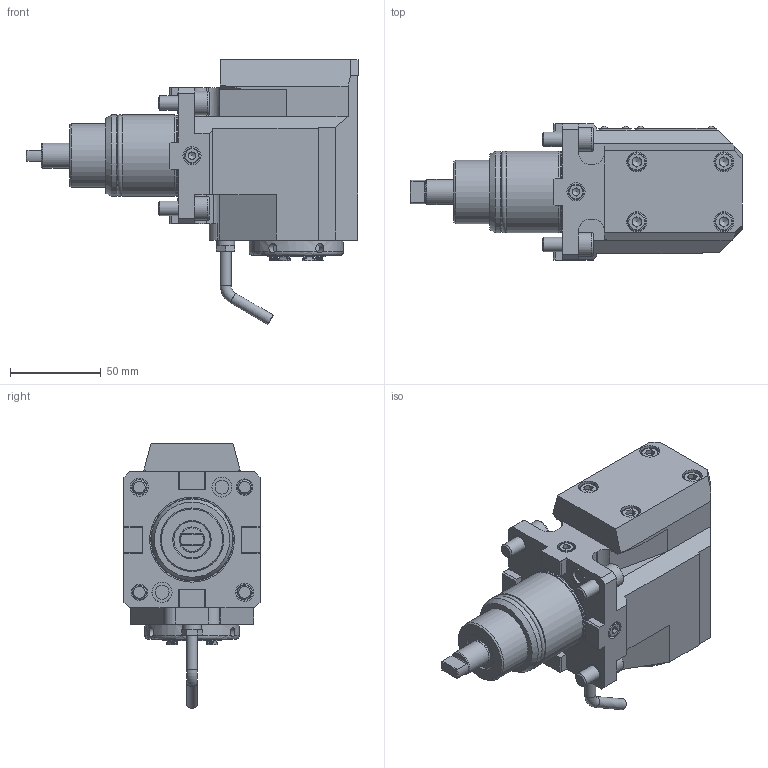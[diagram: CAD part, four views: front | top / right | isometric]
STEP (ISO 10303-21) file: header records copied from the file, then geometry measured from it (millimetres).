
FILE_DESCRIPTION(/* description */ (''),/* implementation_level */ '2;1');
FILE_NAME(/* name */ '192510',/* time_stamp */ '2020-05-25T13:01:12+02:00',/* author */ (''),/* organization */ (''),/* preprocessor_version */ 'ST-DEVELOPER v16.5',/* originating_system */ 'HiCAD 2017 2201.0 Build 268',/* authorisation */ '');
FILE_SCHEMA (('AUTOMOTIVE_DESIGN { 1 0 10303 214 1 1 1 1 }'));
Products named in the file (19): Root; A192510_AGW-BMT-C-45-ER25-E; DIN 13-M6; GEWINDE; DIN 76-M5; DIN 13-M10; DIN 13-M10x1
Assembly tree (18 placements, depth 3):
  Root
    A192510_AGW-BMT-C-45-ER25-E
      DIN 13-M6
      DIN 13-M6
      GEWINDE
      GEWINDE
      GEWINDE
      GEWINDE
      GEWINDE
      GEWINDE
      GEWINDE
      GEWINDE
      DIN 76-M5
      DIN 76-M5
      DIN 76-M5
      DIN 76-M5
      DIN 13-M10
      DIN 13-M10
      DIN 13-M10x1
Bounding box: 183 x 75.01 x 146.03 mm (x, y, z)
Volume: 645005.9 mm3; surface area: 81970.6 mm2
Topology: 19 solids, 31 shells, 999 faces, 2523 edges, 1645 vertices
Faces by surface type: plane 597, cylinder 269, cone 55, bspline 38, torus 32, sphere 8
Full cylindrical faces by diameter (mm): 2 x8, 2.2 x8, 4 x2, 4.019 x16, 5 x18, 5.1 x6, 5.5 x4, 6 x4, 6.1 x1, 6.466 x8, 7.65 x2, 8 x8, 8.5 x6, 8.773 x2, 8.92 x1, 9 x3, 10 x16, 11 x4, 11.01 x2, 11.1 x2, 13 x4, 13.8 x1, 14 x1, 17 x1, 21 x1, 30.5 x1, 32 x1, 35 x1, 41.2 x2, 44.5 x1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
Entity records: 80538 total; most frequent: CARTESIAN_POINT 31963, PRESENTATION_STYLE_ASSIGNMENT 4980, OVER_RIDING_STYLED_ITEM 4962, DIRECTION 4582, COLOUR_RGB 4428, DRAUGHTING_PRE_DEFINED_CURVE_FONT 4416, CURVE_STYLE 4416, ORIENTED_EDGE 4416
